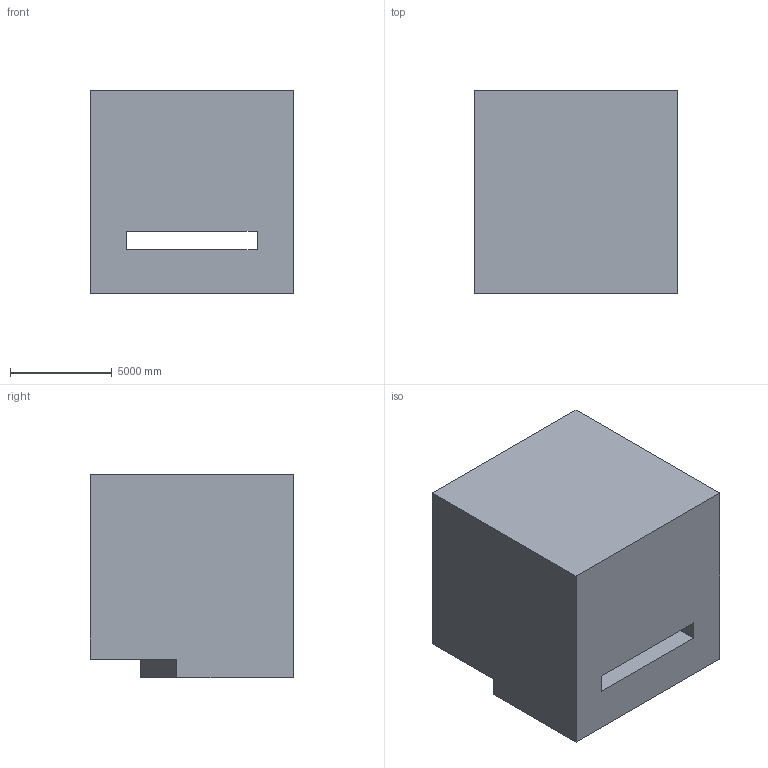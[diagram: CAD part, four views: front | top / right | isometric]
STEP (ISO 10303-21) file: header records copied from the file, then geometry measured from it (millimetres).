
FILE_DESCRIPTION (( 'STEP AP203' ), '1' );
FILE_NAME ('6.STEP', '2022-08-30T13:59:58', ( 'user' ), ( '' ), 'SwSTEP 2.0', 'SolidWorks 2021', '' );
FILE_SCHEMA (( 'CONFIG_CONTROL_DESIGN' ));
Length unit declared in the file: centimetre
Products named in the file (1): 6
Bounding box: 10000 x 10000 x 10000 mm (x, y, z)
Volume: 910708893455.2 mm3; surface area: 727438861.6 mm2
Topology: 1 solids, 1 shells, 13 faces, 33 edges, 22 vertices
Faces by surface type: plane 13
Entity records: 468 total; most frequent: CARTESIAN_POINT 69, ORIENTED_EDGE 66, DIRECTION 61, LINE 33, VECTOR 33, EDGE_CURVE 33, VERTEX_POINT 22, EDGE_LOOP 15
